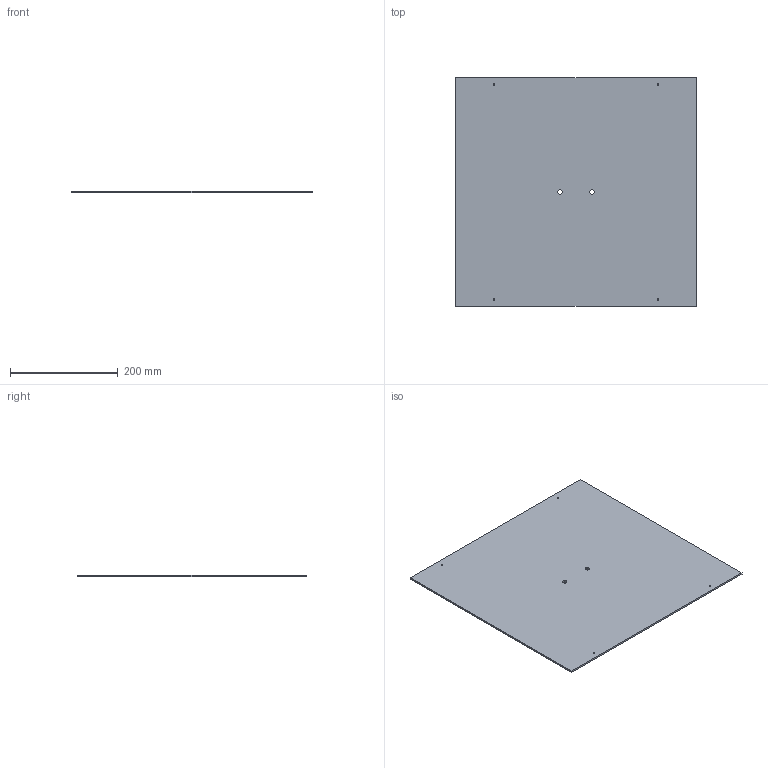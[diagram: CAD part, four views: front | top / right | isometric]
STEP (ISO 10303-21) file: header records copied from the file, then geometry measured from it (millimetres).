
FILE_DESCRIPTION(/* description */ ('STEP AP242','CAx-IF Rec.Pracs.---Representation and Presentation of Product Manufacturing Information (PMI)---4.0---2014-10-13','CAx-IF Rec.Pracs.---3D Tessellated Geometry---0.4---2014-09-14','2;1'),/* implementation_level */ '2;1');
FILE_NAME(/* name */ '67648044ea1bb7208a3bea55',/* time_stamp */ '2024-12-19T20:21:24Z',/* author */ (''),/* organization */ (''),/* preprocessor_version */ 'ST-DEVELOPER v20',/* originating_system */ 'ONSHAPE BY PTC INC, 1.191',/* authorisation */ ' ');
FILE_SCHEMA (('AP242_MANAGED_MODEL_BASED_3D_ENGINEERING_MIM_LF { 1 0 10303 442 1 1 4 }'));
Length unit declared in the file: metre
Products named in the file (1): Part 1
Bounding box: 447.42 x 424.94 x 3.17 mm (x, y, z)
Volume: 603230.4 mm3; surface area: 385816.2 mm2
Topology: 1 solids, 1 shells, 12 faces, 30 edges, 20 vertices
Faces by surface type: plane 6, cylinder 6
Full cylindrical faces by diameter (mm): 3.226 x4, 8.037 x2
Entity records: 382 total; most frequent: DIRECTION 62, CARTESIAN_POINT 57, ORIENTED_EDGE 48, EDGE_LOOP 30, FACE_BOUND 30, AXIS2_PLACEMENT_3D 25, EDGE_CURVE 24, VERTEX_POINT 20
